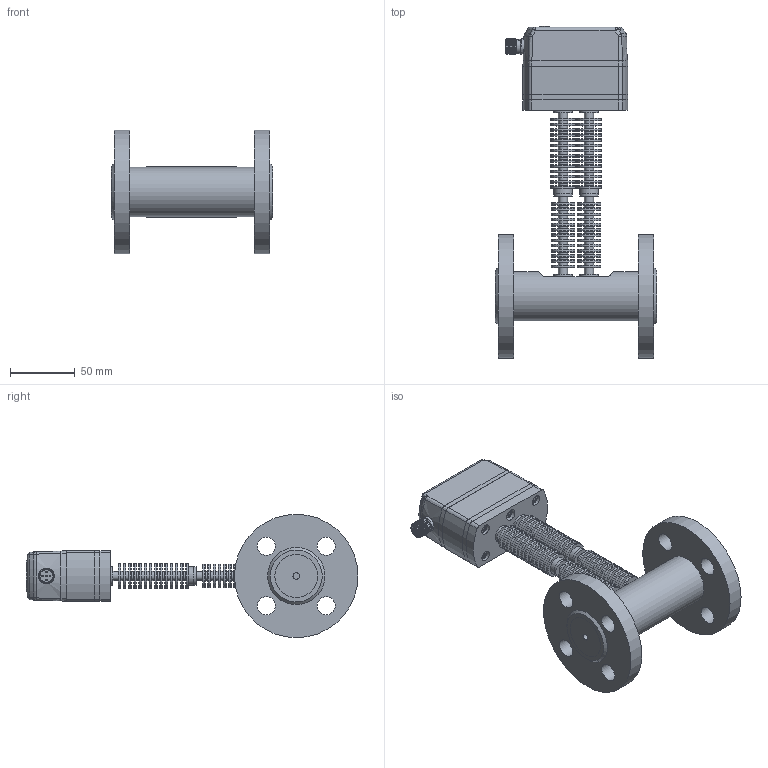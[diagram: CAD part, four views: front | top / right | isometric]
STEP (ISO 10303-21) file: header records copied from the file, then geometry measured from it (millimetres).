
FILE_DESCRIPTION( (''), '2;1');
FILE_NAME( 'QEKH_DN15_flange_cooling-fins_2.step', '2025-04-29T15:06:06+08:00', (''), (''), '', '', '');
FILE_SCHEMA (('AUTOMOTIVE_DESIGN { 1 0 10303 214 3 1 1 1 }'));
Length unit declared in the file: millimetre
Products named in the file (1): QEKH DN15_flange_cooling-fins_2
Bounding box: 124 x 255.4 x 95 mm (x, y, z)
Volume: 497145.2 mm3; surface area: 164950 mm2
Topology: 30 solids, 33 shells, 1893 faces, 4392 edges, 2792 vertices
Faces by surface type: plane 865, cylinder 416, cone 264, extrusion 239, torus 52, bspline 48, sphere 9
Full cylindrical faces by diameter (mm): 1 x10, 2.05 x4, 2.6 x4, 2.7 x5, 2.874 x4, 3 x8, 3.1 x1, 3.3 x8, 3.5 x7, 3.838 x6, 4.2 x2, 4.5 x12, 5 x3, 5.5 x10, 7 x62, 8 x4, 9 x2, 9.8 x2, 10.8 x1, 11 x8, 11.5 x2, 11.992 x2, 12 x8, 14 x18, 14.5 x2, 17 x2, 18 x26, 19 x28, 19.1 x6, 33 x4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
Entity records: 57986 total; most frequent: CARTESIAN_POINT 17404, DIRECTION 7751, ORIENTED_EDGE 7622, EDGE_CURVE 3811, AXIS2_PLACEMENT_3D 2835, VERTEX_POINT 2699, EDGE_LOOP 2676, VECTOR 2081
